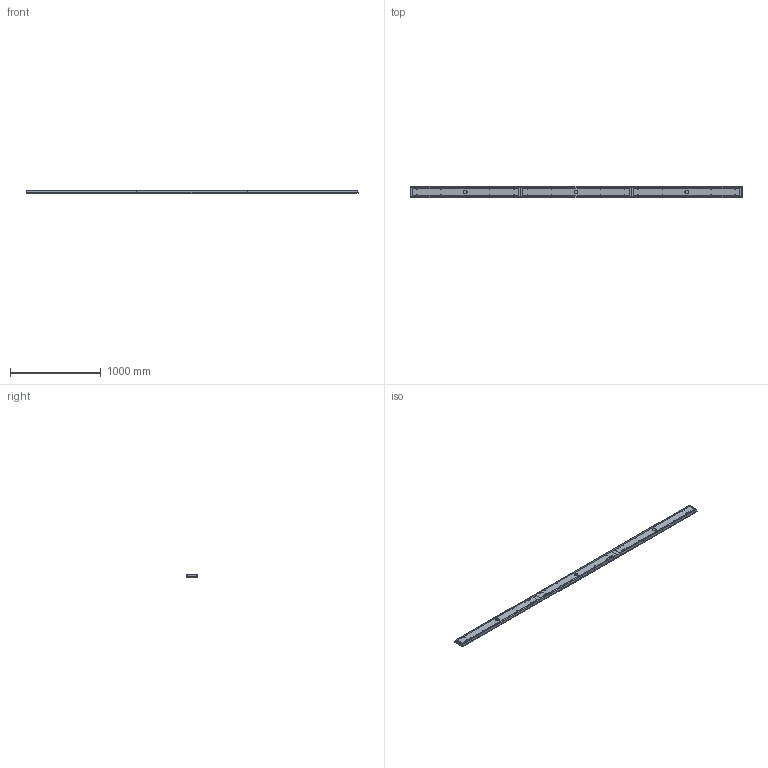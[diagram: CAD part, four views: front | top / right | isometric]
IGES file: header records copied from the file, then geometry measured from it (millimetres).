
Global section: file name: /Users/danielszollosi/Documents/SkLO/DEVELOPMENT/LIGHT 2024/MULTIPENDANT CANOPIES/Linear Multipendant Canopies/SkLO_Linear_Canopy_12'_MCL12/3D/SkLO_Linear_Canopy_12'_MCL012_3D.igs; native system: Rhinoceros ( Sep 24 2023 ); preprocessor: Trout Lake IGES 012 Sep 24 2023; date: 241018.194451; units: millimetre
Bounding box: 3660 x 127 x 28.3 mm (x, y, z)
Surface area: 1930331.1 mm2 (no closed solid volume)
Topology: 0 solids, 0 shells, 479 faces, 3009 edges, 2782 vertices
Faces by surface type: bspline 479
